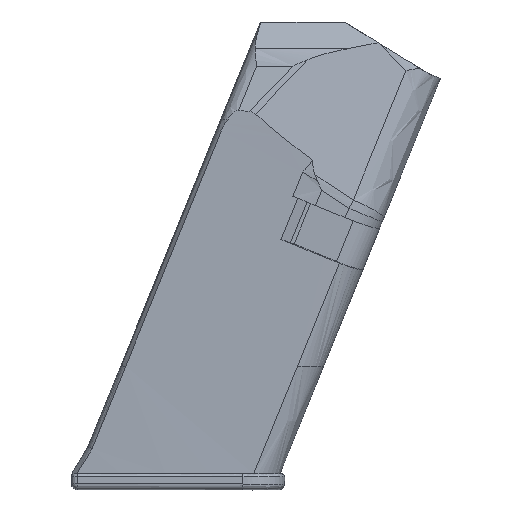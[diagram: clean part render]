
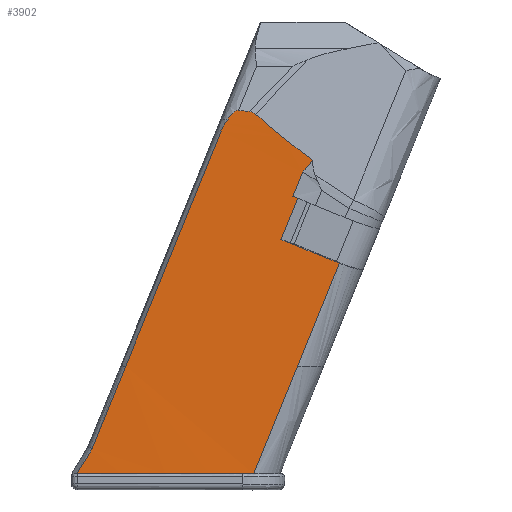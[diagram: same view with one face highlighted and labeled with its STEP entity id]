
A CAD part, top view. The second image highlights one B-rep face of the part: STEP entity #3902.
In plain terms, the highlighted cylindrical face has radius 941.89 mm (diameter 1883.78 mm), a partial arc.
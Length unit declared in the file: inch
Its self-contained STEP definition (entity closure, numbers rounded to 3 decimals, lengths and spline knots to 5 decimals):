
#115=ELLIPSE('',#4165,218.6658,37.08227);
#117=ELLIPSE('',#4169,279.84842,37.08227);
#118=ELLIPSE('',#4170,141.25472,37.08227);
#121=ELLIPSE('',#4175,37.23056,37.08227);
#122=ELLIPSE('',#4178,37.23056,37.08227);
#147=ELLIPSE('',#4237,40.01527,37.08227);
#227=CYLINDRICAL_SURFACE('',#4236,37.08227);
#477=B_SPLINE_CURVE_WITH_KNOTS('',3,(#7763,#7764,#7765,#7766,#7767,#7768),
 .UNSPECIFIED.,.F.,.F.,(4,2,4),(8.12906,8.17572,8.2473),
 .UNSPECIFIED.);
#487=B_SPLINE_CURVE_WITH_KNOTS('',3,(#8106,#8107,#8108,#8109,#8110,#8111,
#8112,#8113,#8114,#8115),.UNSPECIFIED.,.F.,.F.,(4,2,2,2,4),(-0.26293,
-0.24038,-0.21172,-0.13152,0.),
 .UNSPECIFIED.);
#488=B_SPLINE_CURVE_WITH_KNOTS('',3,(#8132,#8133,#8134,#8135,#8136,#8137,
#8138),.UNSPECIFIED.,.F.,.F.,(4,3,4),(-0.2198,-0.1083,
0.),.UNSPECIFIED.);
#495=B_SPLINE_CURVE_WITH_KNOTS('',3,(#8300,#8301,#8302,#8303),
 .UNSPECIFIED.,.F.,.F.,(4,4),(10.17278,10.65762),
 .UNSPECIFIED.);
#678=FACE_OUTER_BOUND('',#905,.T.);
#905=EDGE_LOOP('',(#3296,#3297,#3298,#3299,#3300,#3301,#3302,#3303,#3304,
#3305,#3306,#3307,#3308,#3309,#3310,#3311));
#1127=LINE('',#7802,#1423);
#1129=LINE('',#7811,#1425);
#1169=LINE('',#8160,#1465);
#1174=LINE('',#8190,#1470);
#1189=LINE('',#8297,#1485);
#1190=LINE('',#8306,#1486);
#1423=VECTOR('',#4810,0.3937);
#1425=VECTOR('',#4822,0.3937);
#1465=VECTOR('',#4956,0.3937);
#1470=VECTOR('',#4967,0.3937);
#1485=VECTOR('',#5000,0.3937);
#1486=VECTOR('',#5005,0.3937);
#1776=VERTEX_POINT('',#7756);
#1777=VERTEX_POINT('',#7757);
#1778=VERTEX_POINT('',#7762);
#1779=VERTEX_POINT('',#7771);
#1780=VERTEX_POINT('',#7792);
#1781=VERTEX_POINT('',#7801);
#1782=VERTEX_POINT('',#7806);
#1783=VERTEX_POINT('',#7810);
#1784=VERTEX_POINT('',#7814);
#1825=VERTEX_POINT('',#8105);
#1827=VERTEX_POINT('',#8131);
#1830=VERTEX_POINT('',#8149);
#1835=VERTEX_POINT('',#8177);
#1849=VERTEX_POINT('',#8295);
#1850=VERTEX_POINT('',#8299);
#1851=VERTEX_POINT('',#8304);
#2239=EDGE_CURVE('',#1776,#1777,#115,.T.);
#2242=EDGE_CURVE('',#1778,#1776,#477,.T.);
#2247=EDGE_CURVE('',#1779,#1778,#117,.T.);
#2249=EDGE_CURVE('',#1780,#1779,#118,.T.);
#2250=EDGE_CURVE('',#1781,#1780,#1127,.T.);
#2253=EDGE_CURVE('',#1782,#1781,#121,.F.);
#2255=EDGE_CURVE('',#1782,#1783,#1129,.T.);
#2257=EDGE_CURVE('',#1783,#1784,#122,.F.);
#2325=EDGE_CURVE('',#1777,#1825,#487,.T.);
#2328=EDGE_CURVE('',#1825,#1827,#488,.T.);
#2332=EDGE_CURVE('',#1830,#1827,#1169,.T.);
#2340=EDGE_CURVE('',#1784,#1835,#1174,.T.);
#2364=EDGE_CURVE('',#1849,#1830,#1189,.T.);
#2365=EDGE_CURVE('',#1849,#1850,#495,.T.);
#2366=EDGE_CURVE('',#1850,#1851,#147,.T.);
#2367=EDGE_CURVE('',#1835,#1851,#1190,.T.);
#3296=ORIENTED_EDGE('',*,*,#2340,.F.);
#3297=ORIENTED_EDGE('',*,*,#2257,.F.);
#3298=ORIENTED_EDGE('',*,*,#2255,.F.);
#3299=ORIENTED_EDGE('',*,*,#2253,.T.);
#3300=ORIENTED_EDGE('',*,*,#2250,.T.);
#3301=ORIENTED_EDGE('',*,*,#2249,.T.);
#3302=ORIENTED_EDGE('',*,*,#2247,.T.);
#3303=ORIENTED_EDGE('',*,*,#2242,.T.);
#3304=ORIENTED_EDGE('',*,*,#2239,.T.);
#3305=ORIENTED_EDGE('',*,*,#2325,.T.);
#3306=ORIENTED_EDGE('',*,*,#2328,.T.);
#3307=ORIENTED_EDGE('',*,*,#2332,.F.);
#3308=ORIENTED_EDGE('',*,*,#2364,.F.);
#3309=ORIENTED_EDGE('',*,*,#2365,.T.);
#3310=ORIENTED_EDGE('',*,*,#2366,.T.);
#3311=ORIENTED_EDGE('',*,*,#2367,.F.);
#3902=ADVANCED_FACE('',(#678),#227,.T.);
#4165=AXIS2_PLACEMENT_3D('',#7758,#4791,#4792);
#4169=AXIS2_PLACEMENT_3D('',#7775,#4804,#4805);
#4170=AXIS2_PLACEMENT_3D('',#7799,#4806,#4807);
#4175=AXIS2_PLACEMENT_3D('',#7807,#4817,#4818);
#4178=AXIS2_PLACEMENT_3D('',#7815,#4826,#4827);
#4236=AXIS2_PLACEMENT_3D('',#8298,#5001,#5002);
#4237=AXIS2_PLACEMENT_3D('',#8305,#5003,#5004);
#4791=DIRECTION('center_axis',(0.,-0.183,
-0.983));
#4792=DIRECTION('ref_axis',(0.382,0.909,-0.169));
#4804=DIRECTION('center_axis',(-0.075,-0.113,-0.991));
#4805=DIRECTION('ref_axis',(0.37,0.92,-0.132));
#4806=DIRECTION('center_axis',(-0.668,0.554,0.497));
#4807=DIRECTION('ref_axis',(0.572,0.809,-0.135));
#4810=DIRECTION('',(0.376,0.927,0.));
#4817=DIRECTION('center_axis',(0.375,0.923,0.089));
#4818=DIRECTION('ref_axis',(0.035,0.082,-0.996));
#4822=DIRECTION('',(-0.378,-0.926,0.));
#4826=DIRECTION('center_axis',(-0.375,-0.923,-0.089));
#4827=DIRECTION('ref_axis',(0.035,0.082,-0.996));
#4956=DIRECTION('',(0.376,0.927,0.));
#4967=DIRECTION('',(-0.376,-0.927,0.));
#5000=DIRECTION('',(0.376,0.927,0.));
#5001=DIRECTION('center_axis',(-0.376,-0.927,0.));
#5002=DIRECTION('ref_axis',(0.031,-0.013,-0.999));
#5003=DIRECTION('center_axis',(0.,1.,0.));
#5004=DIRECTION('ref_axis',(1.,0.,0.));
#5005=DIRECTION('',(-0.376,-0.927,0.));
#7756=CARTESIAN_POINT('',(1.80164,2.36676,0.432));
#7757=CARTESIAN_POINT('',(1.72676,2.37533,0.43041));
#7758=CARTESIAN_POINT('Origin',(83.49836,201.50178,-36.64217));
#7762=CARTESIAN_POINT('',(1.846,2.34901,0.43297));
#7763=CARTESIAN_POINT('Ctrl Pts',(1.846,2.34901,0.43297));
#7764=CARTESIAN_POINT('Ctrl Pts',(1.8411,2.35335,0.43285));
#7765=CARTESIAN_POINT('Ctrl Pts',(1.83549,2.35683,0.43272));
#7766=CARTESIAN_POINT('Ctrl Pts',(1.82139,2.36329,0.43241));
#7767=CARTESIAN_POINT('Ctrl Pts',(1.81167,2.36567,0.4322));
#7768=CARTESIAN_POINT('Ctrl Pts',(1.80164,2.36676,0.432));
#7771=CARTESIAN_POINT('',(2.24069,2.02967,0.43931));
#7775=CARTESIAN_POINT('Origin',(106.76126,258.7914,-36.64217));
#7792=CARTESIAN_POINT('',(2.17133,1.94636,0.43908));
#7799=CARTESIAN_POINT('Origin',(29.16631,67.69808,-36.64217));
#7801=CARTESIAN_POINT('',(2.10362,1.77963,0.43908));
#7802=CARTESIAN_POINT('',(0.89063,-1.20761,0.43908));
#7806=CARTESIAN_POINT('',(2.13845,1.76547,0.43934));
#7807=CARTESIAN_POINT('Origin',(3.6066,4.75211,-36.64217));
#7810=CARTESIAN_POINT('',(2.02136,1.47882,0.43934));
#7811=CARTESIAN_POINT('',(2.13845,1.76547,0.43934));
#7814=CARTESIAN_POINT('',(2.42645,1.31438,0.43956));
#7815=CARTESIAN_POINT('Origin',(3.49011,4.46521,-36.64217));
#8105=CARTESIAN_POINT('',(1.64798,2.30712,0.4293));
#8106=CARTESIAN_POINT('Ctrl Pts',(1.72676,2.37533,0.43041));
#8107=CARTESIAN_POINT('Ctrl Pts',(1.72381,2.37568,0.43035));
#8108=CARTESIAN_POINT('Ctrl Pts',(1.72082,2.37527,0.43029));
#8109=CARTESIAN_POINT('Ctrl Pts',(1.71433,2.37343,0.43016));
#8110=CARTESIAN_POINT('Ctrl Pts',(1.71075,2.37169,0.4301));
#8111=CARTESIAN_POINT('Ctrl Pts',(1.69842,2.36439,0.4299));
#8112=CARTESIAN_POINT('Ctrl Pts',(1.68931,2.356,0.42977));
#8113=CARTESIAN_POINT('Ctrl Pts',(1.66999,2.33604,0.42953));
#8114=CARTESIAN_POINT('Ctrl Pts',(1.65816,2.32105,0.4294));
#8115=CARTESIAN_POINT('Ctrl Pts',(1.64798,2.30712,0.4293));
#8131=CARTESIAN_POINT('',(1.6066,2.23052,0.42907));
#8132=CARTESIAN_POINT('Ctrl Pts',(1.64798,2.30712,0.4293));
#8133=CARTESIAN_POINT('Ctrl Pts',(1.63935,2.29532,0.42921));
#8134=CARTESIAN_POINT('Ctrl Pts',(1.63154,2.28236,0.42916));
#8135=CARTESIAN_POINT('Ctrl Pts',(1.62469,2.26943,0.42912));
#8136=CARTESIAN_POINT('Ctrl Pts',(1.61803,2.25687,0.42908));
#8137=CARTESIAN_POINT('Ctrl Pts',(1.61195,2.24369,0.42907));
#8138=CARTESIAN_POINT('Ctrl Pts',(1.6066,2.23052,0.42907));
#8149=CARTESIAN_POINT('',(0.94446,0.59986,0.42907));
#8160=CARTESIAN_POINT('',(0.30678,-0.97054,0.42907));
#8177=CARTESIAN_POINT('',(2.13609,0.59931,0.43956));
#8190=CARTESIAN_POINT('',(1.32994,-1.386,0.43956));
#8295=CARTESIAN_POINT('',(0.71104,0.02504,0.42907));
#8297=CARTESIAN_POINT('',(0.26916,-1.06319,0.42907));
#8298=CARTESIAN_POINT('Origin',(1.67249,-0.01103,-36.64217));
#8299=CARTESIAN_POINT('',(0.60425,-0.14772,0.42822));
#8300=CARTESIAN_POINT('Ctrl Pts',(0.71104,0.02504,0.42907));
#8301=CARTESIAN_POINT('Ctrl Pts',(0.6753,-0.03279,
0.42879));
#8302=CARTESIAN_POINT('Ctrl Pts',(0.6397,-0.09038,
0.42851));
#8303=CARTESIAN_POINT('Ctrl Pts',(0.60425,-0.14772,
0.42822));
#8304=CARTESIAN_POINT('',(1.83252,-0.14829,0.43956));
#8305=CARTESIAN_POINT('Origin',(1.6168,-0.14819,-36.64217));
#8306=CARTESIAN_POINT('',(1.82009,-0.17889,0.43956));
